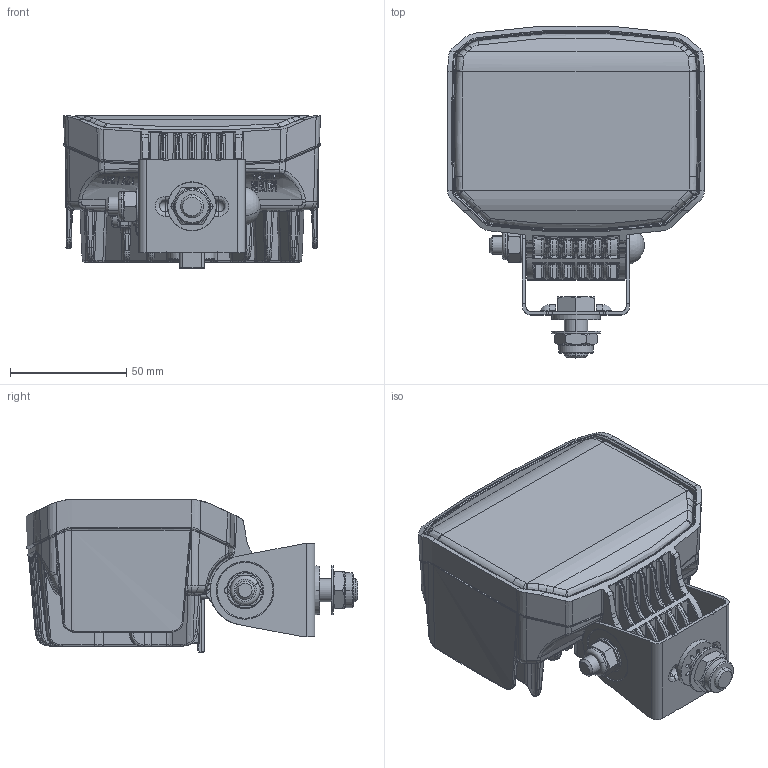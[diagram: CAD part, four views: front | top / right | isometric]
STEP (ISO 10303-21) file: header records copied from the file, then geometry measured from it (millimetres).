
FILE_DESCRIPTION(('CATIA V5 STEP Exchange','CAx-IF Rec.Pracs.--- Model Styling and Organization---1.5--- 2016-08-15','CAx-IF Rec.Pracs.---Supplemental Geometry---1.0---2011-11-01','CAx-IF Rec.Pracs.--- Composite Materials ---1.1---2010-07-15'),'2;1');
FILE_NAME('C:\Users\goengy1\Desktop\MY2021\10003116348_D10_001_ASW NA 0GR MD12-24 DT PB-I.stp','2022-02-07T12:07:20+00:00',('none'),('none'),'CATIA Version 5-6 Release 2020 SP3 HF9','CATIA V5 STEP AP214 v2','none');
FILE_SCHEMA(('AUTOMOTIVE_DESIGN { 1 0 10303 214 1 1 1 1 }'));
Products named in the file (1): 10003116348_D10_001
Bounding box: 110.72 x 142.64 x 65.7 mm (x, y, z)
Surface area: 89860.4 mm2 (no closed solid volume)
Topology: 0 solids, 14 shells, 3996 faces, 10541 edges, 6316 vertices
Faces by surface type: bspline 1936, plane 887, cylinder 694, torus 199, cone 168, sphere 112
Entity records: 228852 total; most frequent: CARTESIAN_POINT 156537, ORIENTED_EDGE 19685, EDGE_CURVE 10254, B_SPLINE_CURVE_WITH_KNOTS 6446, DIRECTION 6326, VERTEX_POINT 6316, EDGE_LOOP 4084, ADVANCED_FACE 3996
